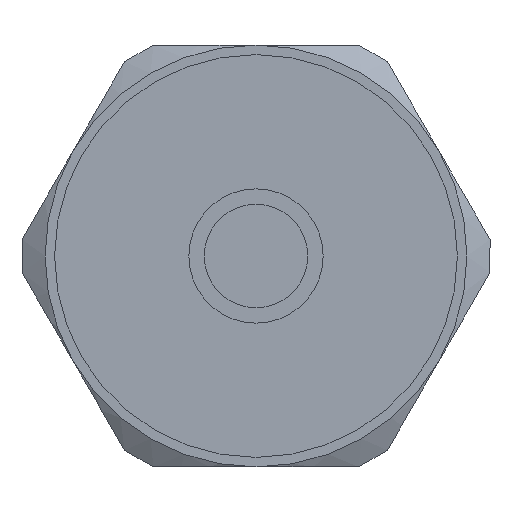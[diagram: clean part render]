
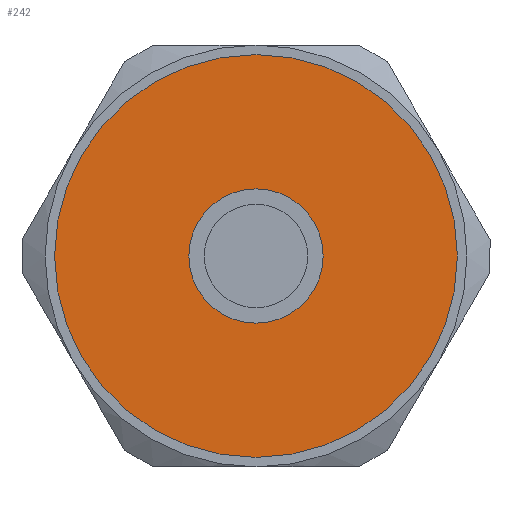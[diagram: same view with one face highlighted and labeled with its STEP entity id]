
A CAD part, front view. The second image highlights one B-rep face of the part: STEP entity #242.
In plain terms, the highlighted planar face has unit normal (0, -1, 0).
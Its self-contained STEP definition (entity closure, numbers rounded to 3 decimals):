
#133 = DIRECTION ( 'NONE',  ( 0., -1., 0. ) ) ;
#242 = ADVANCED_FACE ( 'NONE', ( #1030, #3742 ), #3388, .T. ) ;
#333 = AXIS2_PLACEMENT_3D ( 'NONE', #1607, #3722, #2225 ) ;
#524 = DIRECTION ( 'NONE',  ( 0., 0., -1. ) ) ;
#655 = CIRCLE ( 'NONE', #3229, 10.5 ) ;
#710 = EDGE_CURVE ( 'NONE', #1165, #3813, #655, .T. ) ;
#806 = EDGE_CURVE ( 'NONE', #1873, #1953, #1347, .T. ) ;
#925 = CARTESIAN_POINT ( 'NONE',  ( 0., -10., 0. ) ) ;
#1029 = EDGE_LOOP ( 'NONE', ( #1229, #2197 ) ) ;
#1030 = FACE_BOUND ( 'NONE', #1029, .T. ) ;
#1165 = VERTEX_POINT ( 'NONE', #3767 ) ;
#1192 = DIRECTION ( 'NONE',  ( 0., 0., -1. ) ) ;
#1229 = ORIENTED_EDGE ( 'NONE', *, *, #806, .F. ) ;
#1347 = CIRCLE ( 'NONE', #2544, 3.5 ) ;
#1352 = CARTESIAN_POINT ( 'NONE',  ( 0., -10., 0. ) ) ;
#1476 = DIRECTION ( 'NONE',  ( 0., 0., -1. ) ) ;
#1537 = DIRECTION ( 'NONE',  ( 0., -1., 0. ) ) ;
#1607 = CARTESIAN_POINT ( 'NONE',  ( 0., -10., 0. ) ) ;
#1873 = VERTEX_POINT ( 'NONE', #3654 ) ;
#1953 = VERTEX_POINT ( 'NONE', #2075 ) ;
#2024 = EDGE_LOOP ( 'NONE', ( #2442, #3559 ) ) ;
#2075 = CARTESIAN_POINT ( 'NONE',  ( 0., -10., 3.5 ) ) ;
#2197 = ORIENTED_EDGE ( 'NONE', *, *, #3797, .F. ) ;
#2225 = DIRECTION ( 'NONE',  ( 0., 0., -1. ) ) ;
#2262 = DIRECTION ( 'NONE',  ( 0., 0., -1. ) ) ;
#2306 = CIRCLE ( 'NONE', #3819, 10.5 ) ;
#2330 = DIRECTION ( 'NONE',  ( 0., -1., 0. ) ) ;
#2442 = ORIENTED_EDGE ( 'NONE', *, *, #2576, .T. ) ;
#2544 = AXIS2_PLACEMENT_3D ( 'NONE', #925, #1537, #1192 ) ;
#2576 = EDGE_CURVE ( 'NONE', #3813, #1165, #2306, .T. ) ;
#2702 = CARTESIAN_POINT ( 'NONE',  ( 0., -10., 0. ) ) ;
#3229 = AXIS2_PLACEMENT_3D ( 'NONE', #2702, #3889, #1476 ) ;
#3252 = CARTESIAN_POINT ( 'NONE',  ( 0., -10., 0. ) ) ;
#3388 = PLANE ( 'NONE',  #333 ) ;
#3479 = CARTESIAN_POINT ( 'NONE',  ( 0., -10., 10.5 ) ) ;
#3536 = CIRCLE ( 'NONE', #3793, 3.5 ) ;
#3559 = ORIENTED_EDGE ( 'NONE', *, *, #710, .T. ) ;
#3654 = CARTESIAN_POINT ( 'NONE',  ( 0., -10., -3.5 ) ) ;
#3722 = DIRECTION ( 'NONE',  ( 0., -1., 0. ) ) ;
#3742 = FACE_OUTER_BOUND ( 'NONE', #2024, .T. ) ;
#3767 = CARTESIAN_POINT ( 'NONE',  ( 0., -10., -10.5 ) ) ;
#3793 = AXIS2_PLACEMENT_3D ( 'NONE', #1352, #133, #2262 ) ;
#3797 = EDGE_CURVE ( 'NONE', #1953, #1873, #3536, .T. ) ;
#3813 = VERTEX_POINT ( 'NONE', #3479 ) ;
#3819 = AXIS2_PLACEMENT_3D ( 'NONE', #3252, #2330, #524 ) ;
#3889 = DIRECTION ( 'NONE',  ( 0., -1., 0. ) ) ;
